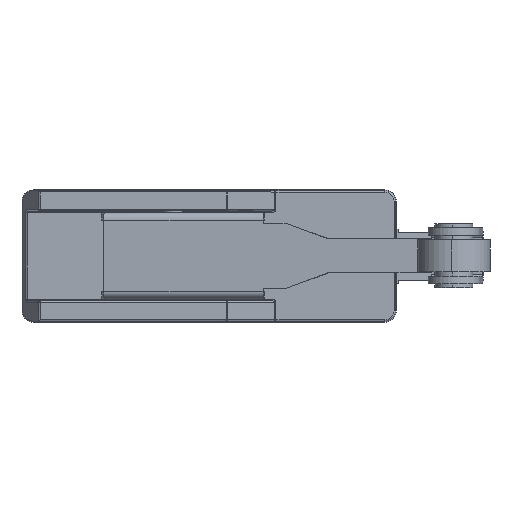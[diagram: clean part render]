
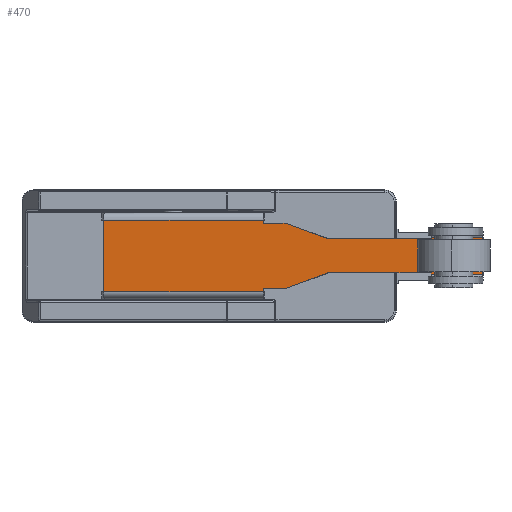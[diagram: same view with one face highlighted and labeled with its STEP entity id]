
A CAD part, top view. The second image highlights one B-rep face of the part: STEP entity #470.
In plain terms, the highlighted planar face has unit normal (-0.062, 0, 0.998) as drawn and (0, 0, -1) by its records, which use the part's own axes.
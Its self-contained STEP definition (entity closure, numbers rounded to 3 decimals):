
#131 = LINE ( 'NONE', #9616, #11067 ) ;
#236 = ORIENTED_EDGE ( 'NONE', *, *, #14747, .F. ) ;
#245 = CARTESIAN_POINT ( 'NONE',  ( -2.25, 29.5, 0. ) ) ;
#342 = VERTEX_POINT ( 'NONE', #921 ) ;
#381 = VERTEX_POINT ( 'NONE', #5761 ) ;
#405 = LINE ( 'NONE', #3893, #7561 ) ;
#446 = DIRECTION ( 'NONE',  ( 0., -1., 0. ) ) ;
#470 = ADVANCED_FACE ( 'NONE', ( #2973 ), #2340, .F. ) ;
#652 = EDGE_CURVE ( 'NONE', #10622, #6354, #14563, .T. ) ;
#661 = CARTESIAN_POINT ( 'NONE',  ( -4.25, 24.005, 0. ) ) ;
#736 = CARTESIAN_POINT ( 'NONE',  ( 4.7, 21., 0. ) ) ;
#754 = DIRECTION ( 'NONE',  ( 0., -1., 0. ) ) ;
#921 = CARTESIAN_POINT ( 'NONE',  ( 2.4, 43.1, 0. ) ) ;
#1134 = CARTESIAN_POINT ( 'NONE',  ( 0., 0., 0. ) ) ;
#1143 = ORIENTED_EDGE ( 'NONE', *, *, #10620, .T. ) ;
#1211 = EDGE_CURVE ( 'NONE', #13453, #10622, #5667, .T. ) ;
#1252 = EDGE_CURVE ( 'NONE', #1995, #10010, #5296, .T. ) ;
#1320 = LINE ( 'NONE', #3388, #4137 ) ;
#1425 = CARTESIAN_POINT ( 'NONE',  ( 4.7, 0., 0. ) ) ;
#1590 = ORIENTED_EDGE ( 'NONE', *, *, #1754, .F. ) ;
#1754 = EDGE_CURVE ( 'NONE', #4242, #7737, #405, .T. ) ;
#1830 = VERTEX_POINT ( 'NONE', #1425 ) ;
#1937 = DIRECTION ( 'NONE',  ( 0., 1., 0. ) ) ;
#1995 = VERTEX_POINT ( 'NONE', #4250 ) ;
#2080 = CARTESIAN_POINT ( 'NONE',  ( 2.25, 29.5, 0. ) ) ;
#2121 = EDGE_CURVE ( 'NONE', #381, #13453, #2248, .T. ) ;
#2234 = CARTESIAN_POINT ( 'NONE',  ( 4.25, 21., 0. ) ) ;
#2248 = LINE ( 'NONE', #13039, #8295 ) ;
#2340 = PLANE ( 'NONE',  #2780 ) ;
#2462 = VECTOR ( 'NONE', #7712, 1000. ) ;
#2602 = CARTESIAN_POINT ( 'NONE',  ( 4.25, 24.005, 0. ) ) ;
#2719 = CARTESIAN_POINT ( 'NONE',  ( -4.7, 21., 0. ) ) ;
#2780 = AXIS2_PLACEMENT_3D ( 'NONE', #1134, #12005, #4767 ) ;
#2973 = FACE_OUTER_BOUND ( 'NONE', #13601, .T. ) ;
#3109 = CARTESIAN_POINT ( 'NONE',  ( 4.25, 21., 0. ) ) ;
#3333 = CARTESIAN_POINT ( 'NONE',  ( -2.4, 49.9, 0. ) ) ;
#3383 = DIRECTION ( 'NONE',  ( 0., 1., 0. ) ) ;
#3388 = CARTESIAN_POINT ( 'NONE',  ( 2.25, 43.1, 0. ) ) ;
#3420 = ORIENTED_EDGE ( 'NONE', *, *, #652, .F. ) ;
#3439 = VECTOR ( 'NONE', #1937, 1000. ) ;
#3669 = ORIENTED_EDGE ( 'NONE', *, *, #7961, .T. ) ;
#3862 = CARTESIAN_POINT ( 'NONE',  ( -2.4, 49.9, 0. ) ) ;
#3893 = CARTESIAN_POINT ( 'NONE',  ( -4.7, 21., 0. ) ) ;
#4065 = CARTESIAN_POINT ( 'NONE',  ( 2.25, 29.5, 0. ) ) ;
#4137 = VECTOR ( 'NONE', #5819, 1000. ) ;
#4242 = VERTEX_POINT ( 'NONE', #7373 ) ;
#4250 = CARTESIAN_POINT ( 'NONE',  ( 2.25, 43.1, 0. ) ) ;
#4314 = EDGE_CURVE ( 'NONE', #6354, #4242, #8771, .T. ) ;
#4451 = LINE ( 'NONE', #6334, #11280 ) ;
#4602 = CARTESIAN_POINT ( 'NONE',  ( -2.25, 29.5, 0. ) ) ;
#4619 = EDGE_CURVE ( 'NONE', #381, #11478, #12521, .T. ) ;
#4767 = DIRECTION ( 'NONE',  ( 1., 0., 0. ) ) ;
#5150 = DIRECTION ( 'NONE',  ( 0., 1., 0. ) ) ;
#5289 = ORIENTED_EDGE ( 'NONE', *, *, #1211, .F. ) ;
#5296 = LINE ( 'NONE', #4065, #2462 ) ;
#5389 = ORIENTED_EDGE ( 'NONE', *, *, #5401, .T. ) ;
#5401 = EDGE_CURVE ( 'NONE', #13578, #10696, #12694, .T. ) ;
#5649 = VECTOR ( 'NONE', #7484, 1000. ) ;
#5667 = LINE ( 'NONE', #245, #14912 ) ;
#5716 = CARTESIAN_POINT ( 'NONE',  ( -4.7, 0., 0. ) ) ;
#5761 = CARTESIAN_POINT ( 'NONE',  ( -2.4, 43.1, 0. ) ) ;
#5819 = DIRECTION ( 'NONE',  ( -1., 0., 0. ) ) ;
#5926 = VECTOR ( 'NONE', #7480, 1000. ) ;
#5965 = EDGE_CURVE ( 'NONE', #1830, #11032, #13054, .T. ) ;
#6334 = CARTESIAN_POINT ( 'NONE',  ( 2.4, 49.9, 0. ) ) ;
#6354 = VERTEX_POINT ( 'NONE', #10747 ) ;
#6504 = ORIENTED_EDGE ( 'NONE', *, *, #5965, .F. ) ;
#7320 = LINE ( 'NONE', #5716, #7713 ) ;
#7373 = CARTESIAN_POINT ( 'NONE',  ( -4.25, 21., 0. ) ) ;
#7480 = DIRECTION ( 'NONE',  ( 0., -1., 0. ) ) ;
#7484 = DIRECTION ( 'NONE',  ( 0.342, -0.94, 0. ) ) ;
#7561 = VECTOR ( 'NONE', #12333, 1000. ) ;
#7601 = DIRECTION ( 'NONE',  ( 0., 1., 0. ) ) ;
#7712 = DIRECTION ( 'NONE',  ( 0., -1., 0. ) ) ;
#7713 = VECTOR ( 'NONE', #12925, 1000. ) ;
#7725 = ORIENTED_EDGE ( 'NONE', *, *, #14541, .F. ) ;
#7737 = VERTEX_POINT ( 'NONE', #15317 ) ;
#7809 = ORIENTED_EDGE ( 'NONE', *, *, #11979, .T. ) ;
#7961 = EDGE_CURVE ( 'NONE', #13729, #7737, #13923, .T. ) ;
#8098 = DIRECTION ( 'NONE',  ( -1., 0., 0. ) ) ;
#8144 = VECTOR ( 'NONE', #15078, 1000. ) ;
#8295 = VECTOR ( 'NONE', #12928, 1000. ) ;
#8771 = LINE ( 'NONE', #11491, #5926 ) ;
#8873 = LINE ( 'NONE', #12287, #5649 ) ;
#9324 = VECTOR ( 'NONE', #3383, 1000. ) ;
#9509 = VECTOR ( 'NONE', #754, 1000. ) ;
#9616 = CARTESIAN_POINT ( 'NONE',  ( 4.7, 21., 0. ) ) ;
#10010 = VERTEX_POINT ( 'NONE', #2080 ) ;
#10151 = CARTESIAN_POINT ( 'NONE',  ( -4.7, 0., 0. ) ) ;
#10620 = EDGE_CURVE ( 'NONE', #342, #1995, #1320, .T. ) ;
#10622 = VERTEX_POINT ( 'NONE', #4602 ) ;
#10681 = CARTESIAN_POINT ( 'NONE',  ( -2.25, 43.1, 0. ) ) ;
#10696 = VERTEX_POINT ( 'NONE', #2234 ) ;
#10740 = VECTOR ( 'NONE', #5150, 1000. ) ;
#10747 = CARTESIAN_POINT ( 'NONE',  ( -4.25, 24.005, 0. ) ) ;
#11032 = VERTEX_POINT ( 'NONE', #11887 ) ;
#11067 = VECTOR ( 'NONE', #11994, 1000. ) ;
#11254 = ORIENTED_EDGE ( 'NONE', *, *, #4314, .F. ) ;
#11280 = VECTOR ( 'NONE', #7601, 1000. ) ;
#11478 = VERTEX_POINT ( 'NONE', #3862 ) ;
#11491 = CARTESIAN_POINT ( 'NONE',  ( -4.25, 21., 0. ) ) ;
#11790 = ORIENTED_EDGE ( 'NONE', *, *, #15296, .T. ) ;
#11887 = CARTESIAN_POINT ( 'NONE',  ( 4.7, 21., 0. ) ) ;
#11979 = EDGE_CURVE ( 'NONE', #10010, #13578, #8873, .T. ) ;
#11994 = DIRECTION ( 'NONE',  ( 1., 0., 0. ) ) ;
#12005 = DIRECTION ( 'NONE',  ( 0., 0., 1. ) ) ;
#12287 = CARTESIAN_POINT ( 'NONE',  ( 4.25, 24.005, 0. ) ) ;
#12333 = DIRECTION ( 'NONE',  ( -1., 0., 0. ) ) ;
#12462 = CARTESIAN_POINT ( 'NONE',  ( 2.4, 49.9, 0. ) ) ;
#12521 = LINE ( 'NONE', #3333, #9324 ) ;
#12694 = LINE ( 'NONE', #3109, #9509 ) ;
#12750 = ORIENTED_EDGE ( 'NONE', *, *, #1252, .T. ) ;
#12918 = ORIENTED_EDGE ( 'NONE', *, *, #13415, .F. ) ;
#12925 = DIRECTION ( 'NONE',  ( 1., 0., 0. ) ) ;
#12928 = DIRECTION ( 'NONE',  ( 1., 0., 0. ) ) ;
#13039 = CARTESIAN_POINT ( 'NONE',  ( -2.25, 43.1, 0. ) ) ;
#13054 = LINE ( 'NONE', #736, #3439 ) ;
#13415 = EDGE_CURVE ( 'NONE', #13729, #1830, #7320, .T. ) ;
#13453 = VERTEX_POINT ( 'NONE', #10681 ) ;
#13578 = VERTEX_POINT ( 'NONE', #2602 ) ;
#13586 = ORIENTED_EDGE ( 'NONE', *, *, #4619, .T. ) ;
#13601 = EDGE_LOOP ( 'NONE', ( #12918, #3669, #1590, #11254, #3420, #5289, #14833, #13586, #236, #7725, #1143, #12750, #7809, #5389, #11790, #6504 ) ) ;
#13693 = VERTEX_POINT ( 'NONE', #12462 ) ;
#13729 = VERTEX_POINT ( 'NONE', #10151 ) ;
#13923 = LINE ( 'NONE', #2719, #10740 ) ;
#14095 = CARTESIAN_POINT ( 'NONE',  ( 0., 49.9, 0. ) ) ;
#14541 = EDGE_CURVE ( 'NONE', #342, #13693, #4451, .T. ) ;
#14563 = LINE ( 'NONE', #661, #8144 ) ;
#14644 = VECTOR ( 'NONE', #8098, 1000. ) ;
#14747 = EDGE_CURVE ( 'NONE', #13693, #11478, #15015, .T. ) ;
#14833 = ORIENTED_EDGE ( 'NONE', *, *, #2121, .F. ) ;
#14912 = VECTOR ( 'NONE', #446, 1000. ) ;
#15015 = LINE ( 'NONE', #14095, #14644 ) ;
#15078 = DIRECTION ( 'NONE',  ( -0.342, -0.94, 0. ) ) ;
#15296 = EDGE_CURVE ( 'NONE', #10696, #11032, #131, .T. ) ;
#15317 = CARTESIAN_POINT ( 'NONE',  ( -4.7, 21., 0. ) ) ;
